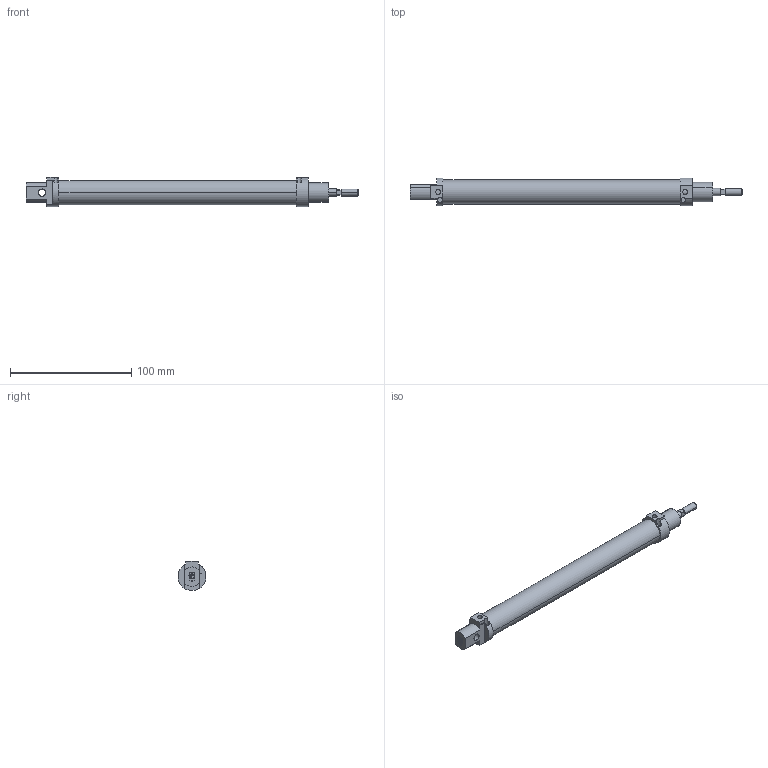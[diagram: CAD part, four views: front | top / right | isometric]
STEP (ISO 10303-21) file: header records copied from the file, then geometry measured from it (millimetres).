
FILE_DESCRIPTION(('CATIA V5 STEP Exchange'),'2;1');
FILE_NAME('D:\stp file for catalog\PSN\16\PSN-16-06-160.stp','2018-04-25T11:00:17+00:00',('none'),('none'),'CATIA Version 5-6 Release 2016','CATIA V5 STEP AP203','none');
FILE_SCHEMA(('CONFIG_CONTROL_DESIGN'));
Length unit declared in the file: millimetre
Products named in the file (1): PSN-16-06-160-00
Assembly tree (2 placements, depth 2):
  PSN-16-06-160-00
    #57
    #4950
Bounding box: 274.25 x 23 x 24 mm (x, y, z)
Volume: 45399 mm3; surface area: 34726.2 mm2
Topology: 2 solids, 2 shells, 200 faces, 502 edges, 330 vertices
Faces by surface type: plane 134, cylinder 58, cone 8
Entity records: 5640 total; most frequent: CARTESIAN_POINT 1068, ORIENTED_EDGE 1004, DIRECTION 751, EDGE_CURVE 502, VECTOR 352, LINE 352, VERTEX_POINT 330, AXIS2_PLACEMENT_3D 270
